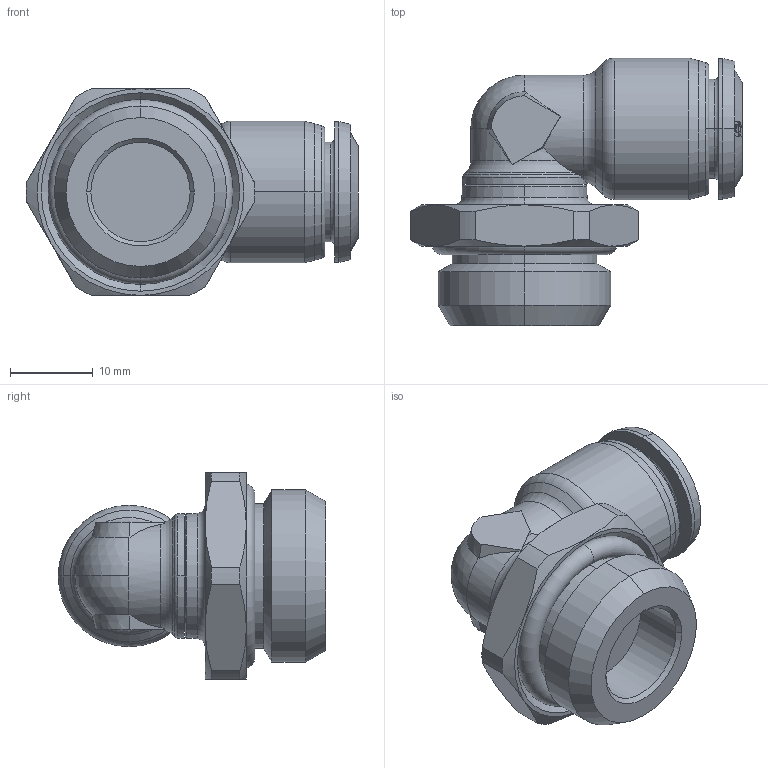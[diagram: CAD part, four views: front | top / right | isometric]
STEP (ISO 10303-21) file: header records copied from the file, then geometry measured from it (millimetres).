
FILE_DESCRIPTION (( 'STEP AP214' ), '1' );
FILE_NAME ('5511600023.step', '2012-10-02T17:37:15', ( '' ), ( '' ), 'SwSTEP 2.0', 'SolidWorks 2012', '' );
FILE_SCHEMA (( 'AUTOMOTIVE_DESIGN' ));
Length unit declared in the file: millimetre
Products named in the file (1): 5511600023
Bounding box: 40.15 x 32.35 x 25 mm (x, y, z)
Volume: 10678.2 mm3; surface area: 4773 mm2
Topology: 1 solids, 1 shells, 192 faces, 462 edges, 287 vertices
Faces by surface type: bspline 54, cone 53, plane 32, cylinder 31, torus 20, sphere 2
Entity records: 11042 total; most frequent: CARTESIAN_POINT 4972, ORIENTED_EDGE 924, DIRECTION 654, EDGE_CURVE 462, VERTEX_POINT 287, AXIS2_PLACEMENT_3D 285, B_SPLINE_CURVE_WITH_KNOTS 218, EDGE_LOOP 207
